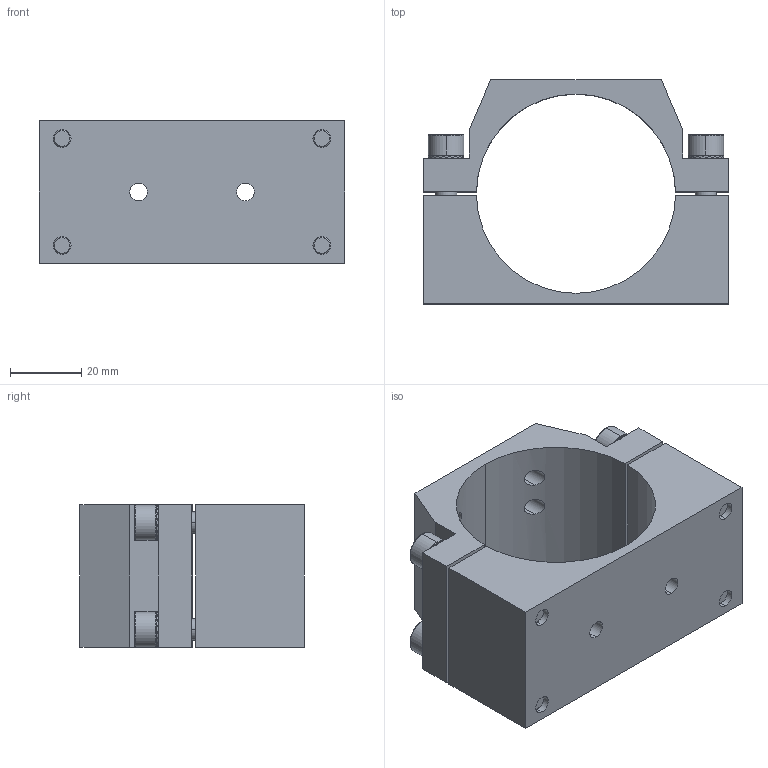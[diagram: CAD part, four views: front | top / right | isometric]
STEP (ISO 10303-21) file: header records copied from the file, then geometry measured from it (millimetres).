
FILE_DESCRIPTION (( 'STEP AP214' ), '1' );
FILE_NAME ('SCE3-N30T.STEP', '2023-01-13T09:00:37', ( 'Windows User' ), ( 'P R C' ), 'SwSTEP 2.0', 'SolidWorks 2019', '' );
FILE_SCHEMA (( 'AUTOMOTIVE_DESIGN' ));
Length unit declared in the file: millimetre
Products named in the file (1): SCE3-N30T
Bounding box: 86 x 63 x 40 mm (x, y, z)
Volume: 92321.2 mm3; surface area: 33305.1 mm2
Topology: 10 solids, 10 shells, 723 faces, 2085 edges, 1382 vertices
Faces by surface type: plane 636, cylinder 63, cone 16, bspline 8
Entity records: 32441 total; most frequent: CARTESIAN_POINT 4703, DIRECTION 4195, ORIENTED_EDGE 4170, EDGE_CURVE 2085, AXIS2_PLACEMENT_3D 1422, VERTEX_POINT 1382, LINE 1351, VECTOR 1351
